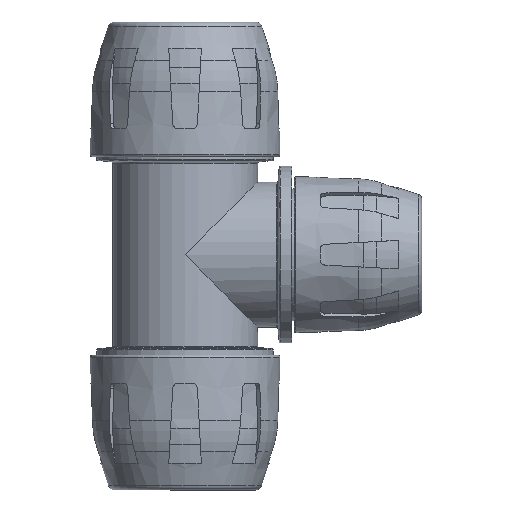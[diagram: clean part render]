
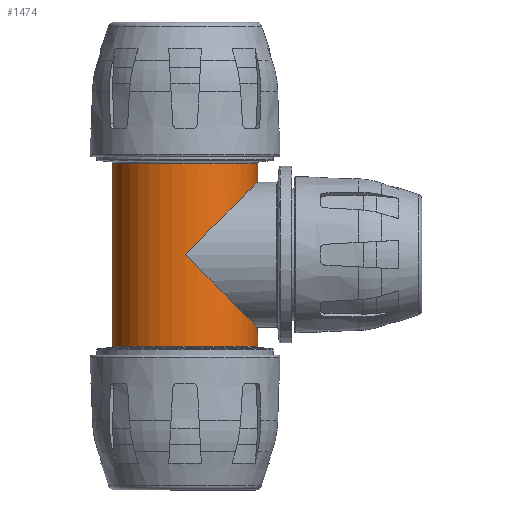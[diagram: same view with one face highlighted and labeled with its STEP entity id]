
A CAD part, left-side view. The second image highlights one B-rep face of the part: STEP entity #1474.
In plain terms, the highlighted cylindrical face has radius 28.5 mm (diameter 57 mm), a full revolution.
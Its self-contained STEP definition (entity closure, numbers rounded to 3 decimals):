
#1474 = ADVANCED_FACE( '', ( #3234, #3235, #3236 ), #3237, .T. );
#3234 = FACE_BOUND( '', #5851, .T. );
#3235 = FACE_OUTER_BOUND( '', #5852, .T. );
#3236 = FACE_OUTER_BOUND( '', #5853, .T. );
#3237 = CYLINDRICAL_SURFACE( '', #5854, 28.5 );
#5851 = EDGE_LOOP( '', ( #10782, #10783 ) );
#5852 = EDGE_LOOP( '', ( #10784 ) );
#5853 = EDGE_LOOP( '', ( #10785 ) );
#5854 = AXIS2_PLACEMENT_3D( '', #10786, #10787, #10788 );
#10782 = ORIENTED_EDGE( '', *, *, #14507, .T. );
#10783 = ORIENTED_EDGE( '', *, *, #14508, .T. );
#10784 = ORIENTED_EDGE( '', *, *, #14509, .T. );
#10785 = ORIENTED_EDGE( '', *, *, #12828, .T. );
#10786 = CARTESIAN_POINT( '', ( -736.985, -361.894, -7.155 ) );
#10787 = DIRECTION( '', ( 0., 0., 1. ) );
#10788 = DIRECTION( '', ( -1., 0., 0. ) );
#12828 = EDGE_CURVE( '', #15222, #15222, #15223, .F. );
#14507 = EDGE_CURVE( '', #17840, #17841, #17842, .F. );
#14508 = EDGE_CURVE( '', #17841, #17840, #17843, .F. );
#14509 = EDGE_CURVE( '', #17844, #17844, #17845, .T. );
#15222 = VERTEX_POINT( '', #19043 );
#15223 = CIRCLE( '', #19044, 28.5 );
#17840 = VERTEX_POINT( '', #24431 );
#17841 = VERTEX_POINT( '', #24432 );
#17842 = ELLIPSE( '', #24433, 40.305, 28.5 );
#17843 = ELLIPSE( '', #24434, 40.305, 28.5 );
#17844 = VERTEX_POINT( '', #24435 );
#17845 = CIRCLE( '', #24436, 28.5 );
#19043 = CARTESIAN_POINT( '', ( -708.485, -361.894, 34.005 ) );
#19044 = AXIS2_PLACEMENT_3D( '', #25349, #25350, #25351 );
#24431 = CARTESIAN_POINT( '', ( -708.485, -361.894, 70.013 ) );
#24432 = CARTESIAN_POINT( '', ( -765.485, -361.894, 70.013 ) );
#24433 = AXIS2_PLACEMENT_3D( '', #27268, #27269, #27270 );
#24434 = AXIS2_PLACEMENT_3D( '', #27271, #27272, #27273 );
#24435 = CARTESIAN_POINT( '', ( -708.485, -361.894, 106.021 ) );
#24436 = AXIS2_PLACEMENT_3D( '', #27274, #27275, #27276 );
#25349 = CARTESIAN_POINT( '', ( -736.985, -361.894, 34.005 ) );
#25350 = DIRECTION( '', ( 0., 0., -1. ) );
#25351 = DIRECTION( '', ( 1., 0., 0. ) );
#27268 = CARTESIAN_POINT( '', ( -736.985, -361.894, 70.013 ) );
#27269 = DIRECTION( '', ( 0., -0.707, 0.707 ) );
#27270 = DIRECTION( '', ( 0., -0.707, -0.707 ) );
#27271 = CARTESIAN_POINT( '', ( -736.985, -361.894, 70.013 ) );
#27272 = DIRECTION( '', ( 0., -0.707, -0.707 ) );
#27273 = DIRECTION( '', ( 0., -0.707, 0.707 ) );
#27274 = CARTESIAN_POINT( '', ( -736.985, -361.894, 106.021 ) );
#27275 = DIRECTION( '', ( 0., 0., -1. ) );
#27276 = DIRECTION( '', ( 1., 0., 0. ) );
